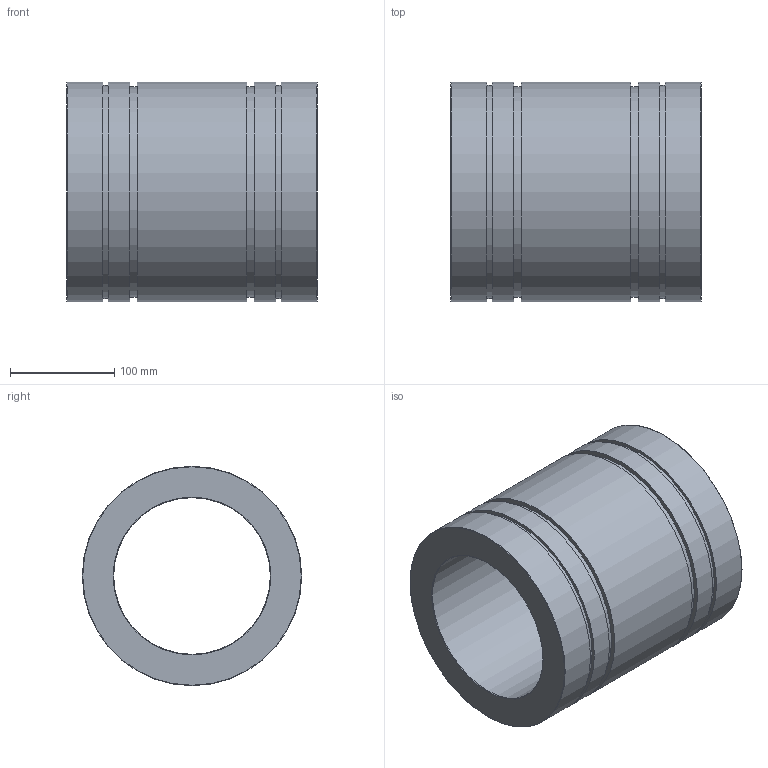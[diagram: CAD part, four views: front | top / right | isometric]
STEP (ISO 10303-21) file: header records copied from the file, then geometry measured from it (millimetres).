
FILE_DESCRIPTION(('STEP AP203'),'1');
FILE_NAME('//192.168.1.1/share/s-4 技術開発/s-4-4_CAD/s-4-4-3_見直し済み/PBC LINEAR修正済み/3D途中/FJ/FJ150.step','2022-03-24T06:50:20',(' '),(' '),'Spatial InterOp 3D',' ',' ');
FILE_SCHEMA(('CONFIG_CONTROL_DESIGN'));
Length unit declared in the file: millimetre
Products named in the file (2): 1; 2
Bounding box: 240 x 210 x 210 mm (x, y, z)
Volume: 4010706.9 mm3; surface area: 323513 mm2
Topology: 1 solids, 1 shells, 24 faces, 39 edges, 26 vertices
Faces by surface type: cylinder 10, plane 10, torus 4
Full cylindrical faces by diameter (mm): 150 x1, 201.193 x2, 204 x2, 210 x5
Entity records: 587 total; most frequent: DIRECTION 102, CARTESIAN_POINT 75, AXIS2_PLACEMENT_3D 51, EDGE_LOOP 48, ORIENTED_EDGE 48, FACE_OUTER_BOUND 38, CIRCLE 25, ADVANCED_FACE 24
